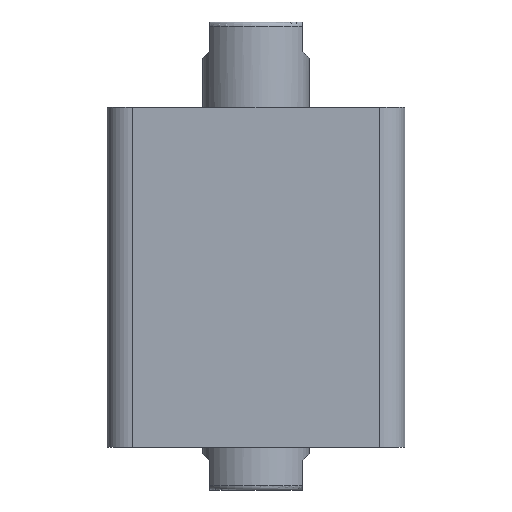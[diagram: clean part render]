
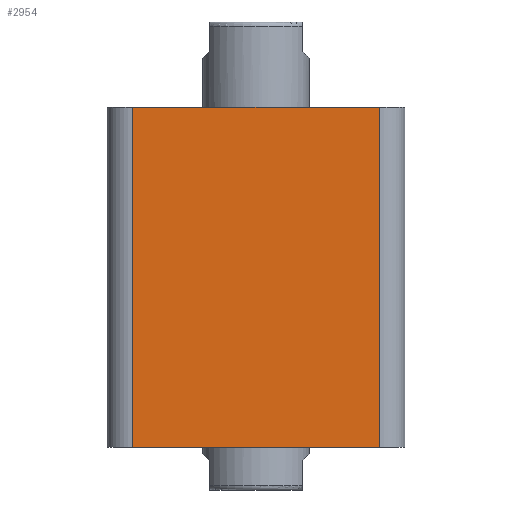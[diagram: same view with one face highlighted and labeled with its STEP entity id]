
A CAD part, front view. The second image highlights one B-rep face of the part: STEP entity #2954.
In plain terms, the highlighted planar face has unit normal (0, -1, 0).
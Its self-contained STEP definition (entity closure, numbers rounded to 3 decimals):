
#38 = CARTESIAN_POINT ( 'NONE',  ( -29., -35., 80. ) ) ;
#210 = CARTESIAN_POINT ( 'NONE',  ( 29., -35., 80. ) ) ;
#243 = CARTESIAN_POINT ( 'NONE',  ( -29., -35., 0. ) ) ;
#244 = CARTESIAN_POINT ( 'NONE',  ( 29., -35., 0. ) ) ;
#426 = FACE_OUTER_BOUND ( 'NONE', #3257, .T. ) ;
#917 = CARTESIAN_POINT ( 'NONE',  ( -35., -35., 80. ) ) ;
#919 = PLANE ( 'NONE',  #2773 ) ;
#921 = DIRECTION ( 'NONE',  ( 0., 1., 0. ) ) ;
#922 = DIRECTION ( 'NONE',  ( 0., 0., 1. ) ) ;
#1184 = ORIENTED_EDGE ( 'NONE', *, *, #2515, .F. ) ;
#1185 = ORIENTED_EDGE ( 'NONE', *, *, #2516, .T. ) ;
#1186 = ORIENTED_EDGE ( 'NONE', *, *, #2517, .T. ) ;
#1187 = ORIENTED_EDGE ( 'NONE', *, *, #2518, .T. ) ;
#1284 = VERTEX_POINT ( 'NONE', #38 ) ;
#1437 = VERTEX_POINT ( 'NONE', #243 ) ;
#1440 = VERTEX_POINT ( 'NONE', #210 ) ;
#1962 = VERTEX_POINT ( 'NONE', #244 ) ;
#2320 = LINE ( 'NONE', #3113, #2333 ) ;
#2326 = LINE ( 'NONE', #3123, #2329 ) ;
#2328 = LINE ( 'NONE', #3125, #2331 ) ;
#2329 = VECTOR ( 'NONE', #3124, 1000. ) ;
#2331 = VECTOR ( 'NONE', #3126, 1000. ) ;
#2332 = LINE ( 'NONE', #3128, #2335 ) ;
#2333 = VECTOR ( 'NONE', #3127, 1000. ) ;
#2335 = VECTOR ( 'NONE', #3129, 1000. ) ;
#2515 = EDGE_CURVE ( 'NONE', #1284, #1440, #2326, .T. ) ;
#2516 = EDGE_CURVE ( 'NONE', #1284, #1437, #2328, .T. ) ;
#2517 = EDGE_CURVE ( 'NONE', #1437, #1962, #2320, .T. ) ;
#2518 = EDGE_CURVE ( 'NONE', #1962, #1440, #2332, .T. ) ;
#2773 = AXIS2_PLACEMENT_3D ( 'NONE', #917, #921, #922 ) ;
#2954 = ADVANCED_FACE ( 'NONE', ( #426 ), #919, .F. ) ;
#3113 = CARTESIAN_POINT ( 'NONE',  ( -35., -35., 0. ) ) ;
#3123 = CARTESIAN_POINT ( 'NONE',  ( -35., -35., 80. ) ) ;
#3124 = DIRECTION ( 'NONE',  ( 1., 0., 0. ) ) ;
#3125 = CARTESIAN_POINT ( 'NONE',  ( -29., -35., 80. ) ) ;
#3126 = DIRECTION ( 'NONE',  ( 0., 0., -1. ) ) ;
#3127 = DIRECTION ( 'NONE',  ( 1., 0., 0. ) ) ;
#3128 = CARTESIAN_POINT ( 'NONE',  ( 29., -35., 80. ) ) ;
#3129 = DIRECTION ( 'NONE',  ( 0., 0., 1. ) ) ;
#3257 = EDGE_LOOP ( 'NONE', ( #1184, #1185, #1186, #1187 ) ) ;
